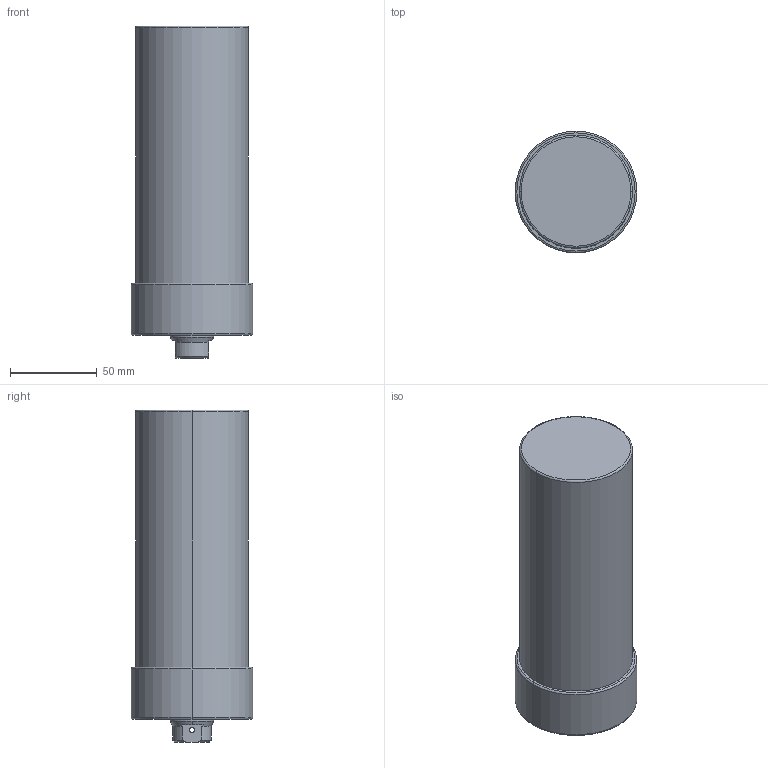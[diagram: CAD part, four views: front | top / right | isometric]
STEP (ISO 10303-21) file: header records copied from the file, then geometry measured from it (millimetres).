
FILE_DESCRIPTION (( 'STEP AP203' ), '1' );
FILE_NAME ('CLLU-065GB-115.STEP', '2020-01-07T06:45:48', ( '' ), ( '' ), 'SwSTEP 2.0', 'SolidWorks 2015', '' );
FILE_SCHEMA (( 'CONFIG_CONTROL_DESIGN' ));
Length unit declared in the file: millimetre
Products named in the file (1): CLLU-065GB-115
Bounding box: 70 x 70 x 191 mm (x, y, z)
Volume: 606934.4 mm3; surface area: 47303.4 mm2
Topology: 1 solids, 1 shells, 66 faces, 154 edges, 87 vertices
Faces by surface type: cylinder 26, cone 24, plane 10, torus 6
Entity records: 2001 total; most frequent: CARTESIAN_POINT 430, DIRECTION 342, ORIENTED_EDGE 288, EDGE_CURVE 144, AXIS2_PLACEMENT_3D 143, VERTEX_POINT 87, EDGE_LOOP 77, CIRCLE 76
